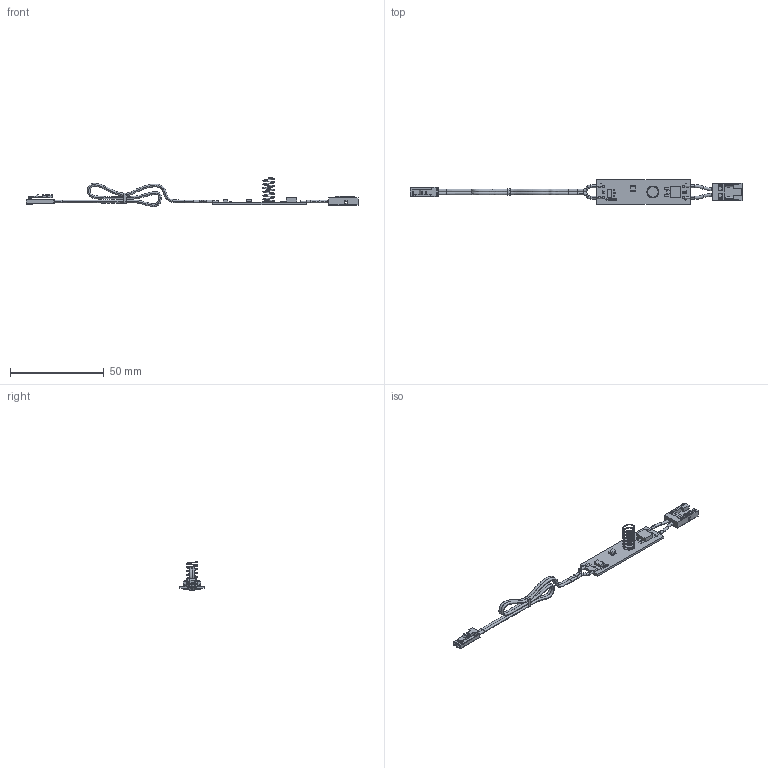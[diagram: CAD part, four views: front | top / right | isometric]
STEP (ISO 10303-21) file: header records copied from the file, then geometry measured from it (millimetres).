
FILE_DESCRIPTION (( 'STEP AP203' ), '1' );
FILE_NAME ('ChannelLine_Sensor_24.STEP', '2024-11-29T05:21:54', ( '' ), ( '' ), 'SwSTEP 2.0', 'SolidWorks 2023', '' );
FILE_SCHEMA (( 'CONFIG_CONTROL_DESIGN' ));
Length unit declared in the file: millimetre
Products named in the file (4): ChannelLine_Sensor_24; 3624270_Pr2691_ChanelLine_Sensor_PCB_12VDC_31.051.99; LED_Stecker_MG_gewickelt; 3637321_Gehäuse_Leitung_im_Gehäuse
Assembly tree (3 placements, depth 2):
  ChannelLine_Sensor_24
    3624270_Pr2691_ChanelLine_Sensor_PCB_12VDC_31.051.99
    LED_Stecker_MG_gewickelt
    3637321_Gehäuse_Leitung_im_Gehäuse
Bounding box: 177.27 x 13 x 15.51 mm (x, y, z)
Volume: 2294 mm3; surface area: 5436.1 mm2
Topology: 13 solids, 13 shells, 758 faces, 1951 edges, 1191 vertices
Faces by surface type: plane 416, cylinder 194, bspline 70, torus 47, sphere 31
Entity records: 31258 total; most frequent: CARTESIAN_POINT 12920, ORIENTED_EDGE 3814, DIRECTION 3596, EDGE_CURVE 1907, LINE 1304, VECTOR 1304, VERTEX_POINT 1191, AXIS2_PLACEMENT_3D 1146
